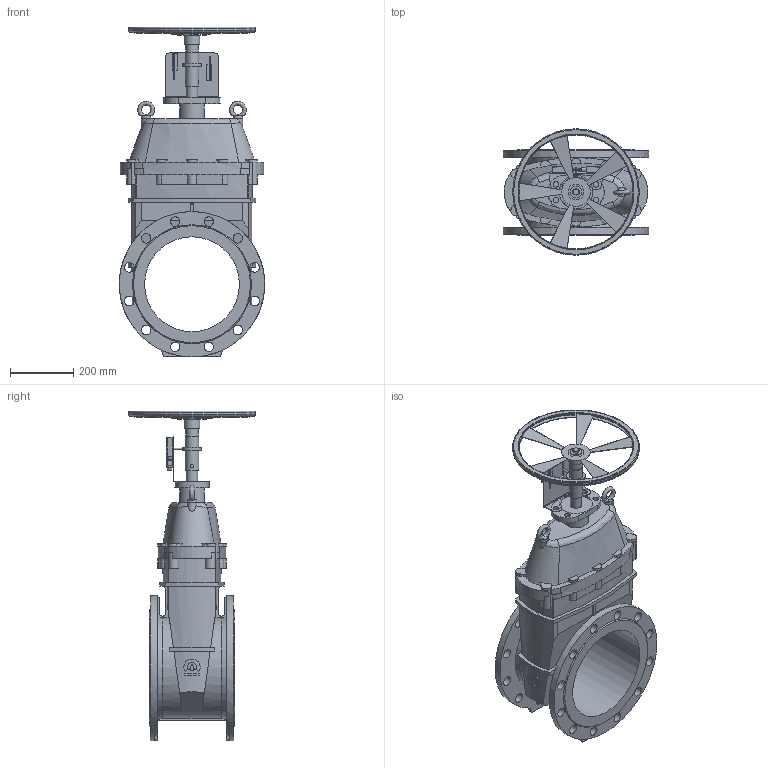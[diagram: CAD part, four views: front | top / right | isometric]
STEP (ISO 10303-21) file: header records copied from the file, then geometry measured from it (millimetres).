
FILE_DESCRIPTION(('STEP AP203'), '1');
FILE_NAME('Çàäâèæêà 47GV.M DN300 ñ ìàõîâèêîì è ÓÊÏ', '', ('UNSPECIFIED'), ('UNSPECIFIED'), 'ASCON STEP Converter 1.6', 'ASCON Math Kernel', '');
FILE_SCHEMA(('CONFIG_CONTROL_DESIGN'));
Length unit declared in the file: millimetre
Bounding box: 460 x 400 x 1043 mm (x, y, z)
Volume: 31911258.7 mm3; surface area: 1781811.6 mm2
Topology: 4 solids, 4 shells, 518 faces, 1355 edges, 857 vertices
Faces by surface type: plane 263, cylinder 196, cone 33, bspline 12, torus 10, sphere 4
Full cylindrical faces by diameter (mm): 4 x4, 4.917 x1, 6 x1, 10 x2, 12 x4, 14 x2, 18 x4, 30 x24, 36 x1, 37 x1, 40 x1, 42 x2, 50 x1, 60 x1, 79 x1, 106 x1, 300 x1, 363 x1, 397 x1, 400 x1, 460 x2
Entity records: 40992 total; most frequent: CARTESIAN_POINT 24197, DIRECTION 2631, ORIENTED_EDGE 2538, EDGE_CURVE 1269, AXIS2_PLACEMENT_3D 1009, VERTEX_POINT 855, EDGE_LOOP 698, LINE 613
